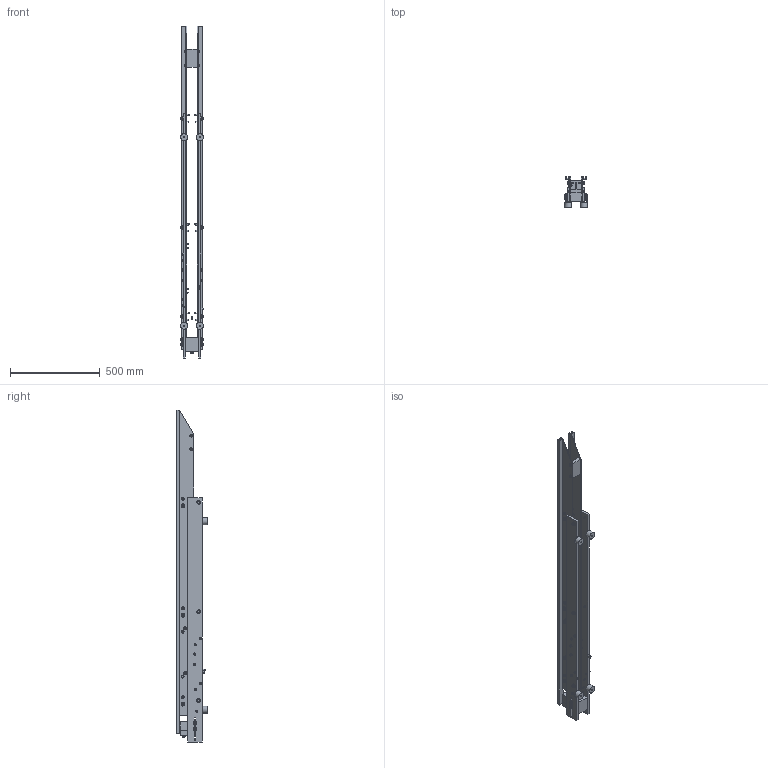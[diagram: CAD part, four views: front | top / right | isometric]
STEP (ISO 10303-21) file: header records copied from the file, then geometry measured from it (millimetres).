
FILE_DESCRIPTION(/* description */ ('STEP AP203'),/* implementation_level */ '2;1');
FILE_NAME(/* name */ 'Linear feeder SLL804-1800 B CE 200V_50Hz',/* time_stamp */ '2024-09-29T17:42:34+02:00',/* author */ ('License CC BY-ND 4.0'),/* organization */ ('CADENAS'),/* preprocessor_version */ 'ST-DEVELOPER v19.3',/* originating_system */ 'PARTsolutions',/* authorisation */ ' ');
FILE_SCHEMA (('CONFIG_CONTROL_DESIGN'));
Length unit declared in the file: millimetre
Products named in the file (5): Linear feeder SLL804-1800 B CE 200V/50Hz; Linear feeder SLL804-1800 B CE 200V/50Hz_PART1; Linear feeder SLL804-1800 B CE 200V/50Hz_PART2; Linear feeder SLL804-1800 B CE 200V/50Hz_PART3; Linear feeder SLL804-1800 B CE 200V/50Hz_PART4
Assembly tree (4 placements, depth 2):
  Linear feeder SLL804-1800 B CE 200V/50Hz
    Linear feeder SLL804-1800 B CE 200V/50Hz_PART1
    Linear feeder SLL804-1800 B CE 200V/50Hz_PART2
    Linear feeder SLL804-1800 B CE 200V/50Hz_PART3
    Linear feeder SLL804-1800 B CE 200V/50Hz_PART4
Bounding box: 127.09 x 172.5 x 1849.1 mm (x, y, z)
Volume: 5953322.9 mm3; surface area: 1656541.2 mm2
Topology: 4 solids, 4 shells, 644 faces, 1469 edges, 961 vertices
Faces by surface type: plane 341, cylinder 172, cone 118, sphere 10, torus 3
Full cylindrical faces by diameter (mm): 5 x3, 5.5 x1, 6 x15, 6.8 x4, 6.88 x1, 7 x1, 8 x18, 8.5 x1, 9 x1, 10 x16, 12 x10, 13 x18, 16 x12, 17 x4, 21 x16, 40 x4
Entity records: 15993 total; most frequent: DIRECTION 2948, CARTESIAN_POINT 2667, ORIENTED_EDGE 2206, AXIS2_PLACEMENT_3D 1222, EDGE_CURVE 1103, EDGE_LOOP 1016, FACE_BOUND 1016, VERTEX_POINT 823
